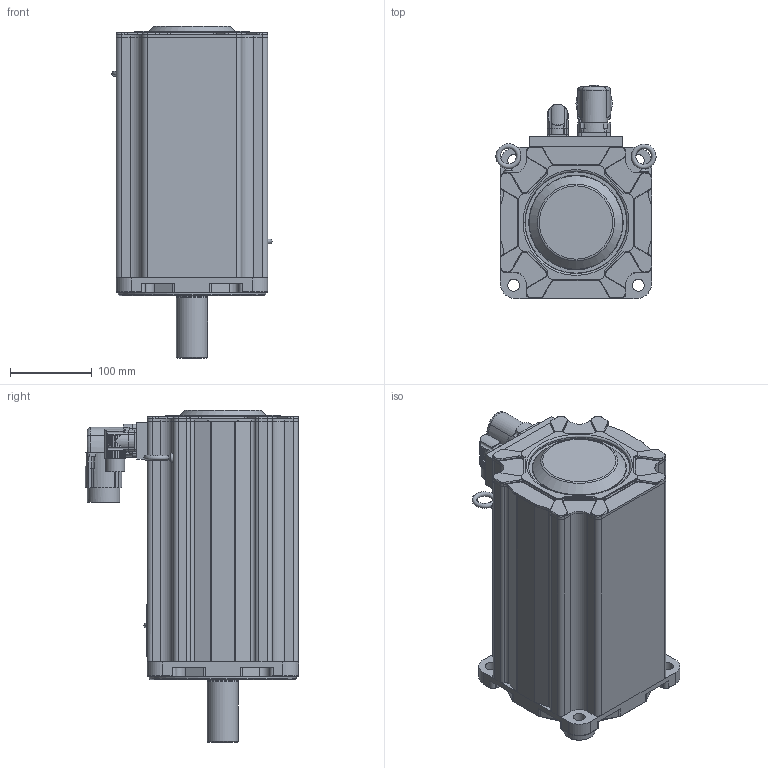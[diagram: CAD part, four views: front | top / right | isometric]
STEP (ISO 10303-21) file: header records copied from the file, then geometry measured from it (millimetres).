
FILE_DESCRIPTION((''),'2;1');
FILE_NAME('C:\CAD_work\Dummy_Modeling_Project_02-12-05\3D MODELS\MPP1908XXX_NPSN.stp','2005-12-20T17:35:08',('jevans'),(''),'Autodesk Inventor 10','Autodesk Inventor 10','');
FILE_SCHEMA(('AUTOMOTIVE_DESIGN { 1 0 10303 214 1 1 1 1 }'));
Length unit declared in the file: inch
Products named in the file (1): MPP190_MOTOR
Bounding box: 195.52 x 260.1 x 405.26 mm (x, y, z)
Volume: 9670350.3 mm3; surface area: 411946.1 mm2
Topology: 5 solids, 5 shells, 820 faces, 2086 edges, 1314 vertices
Faces by surface type: cylinder 369, plane 299, bspline 91, torus 46, cone 15
Full cylindrical faces by diameter (mm): 1.016 x17, 2 x2, 2.997 x2, 3.6 x4, 19.05 x1, 19.685 x1, 22.86 x1, 32.639 x1, 37.645 x1, 38.001 x1, 39.624 x1, 39.903 x1, 40.005 x1, 50.8 x1, 69.85 x1, 80.01 x1, 89.992 x1, 90 x1, 90.043 x1, 90.221 x1, 95.377 x1, 98.425 x1, 124.46 x1, 180.002 x1
Entity records: 28290 total; most frequent: CARTESIAN_POINT 9082, DIRECTION 4016, ORIENTED_EDGE 3946, EDGE_CURVE 1973, AXIS2_PLACEMENT_3D 1553, VERTEX_POINT 1286, EDGE_LOOP 959, VECTOR 910
